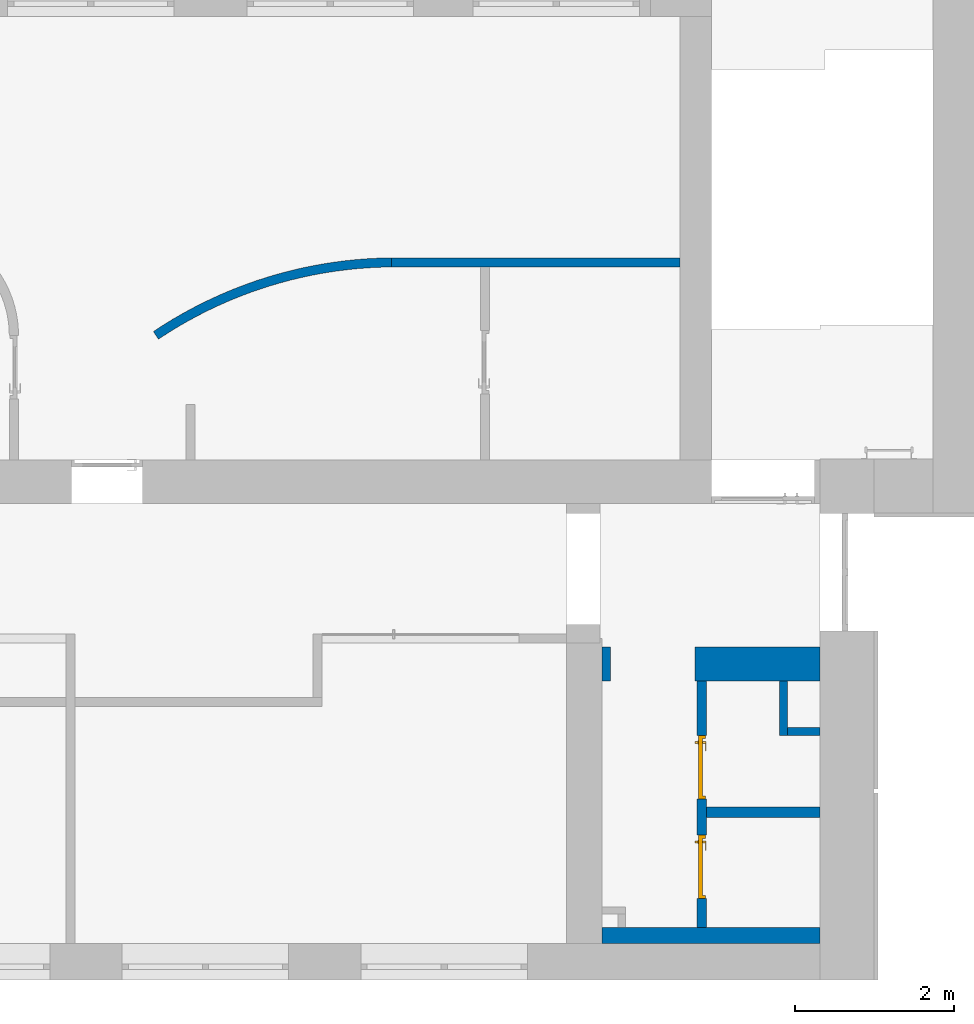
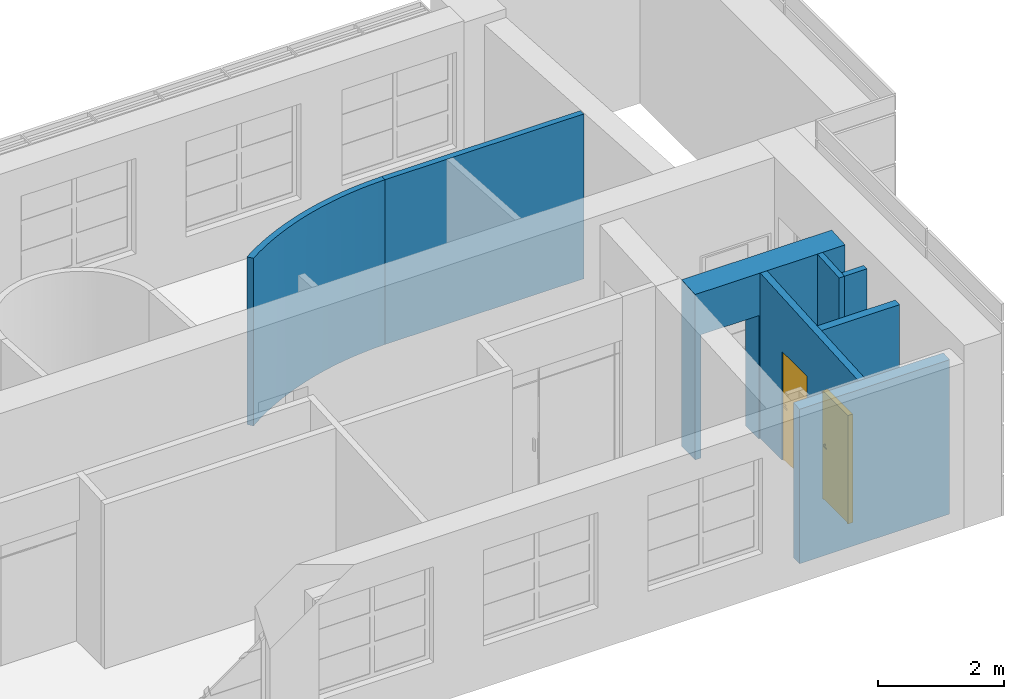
# One storey, part 39 of 46: 8 walls, 2 doors, 5 openings.
"""IFC2X3 building model written with IfcOpenShell, lengths in millimetres."""

from ifc_helpers import new_model, entity, si_unit, converted_unit, derived_unit, direction, frame, frame_2d, origin, place, context, subcontext, project, spatial, polyline, circle_curve, parameter, trimmed, segment, composite_curve, rectangle, outline, extrude, clip, halfspace, bounded_halfspace, faceted_brep, source, transform, mapped, material, material_list, layer, layer_set, layer_usage, type_object, type_shapes, element, fill, save


model = new_model("IFC2X3")

# Units and contexts
model_context = context("Model", 3, precision=0.01, world=origin(), true_north=direction((6.12303176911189e-17, 1.0)))
body_context = subcontext(model_context, "Body", "Model", "MODEL_VIEW")
ifc_project = project(units=[si_unit("LENGTHUNIT", "METRE", prefix="MILLI"), si_unit("AREAUNIT", "SQUARE_METRE"), si_unit("VOLUMEUNIT", "CUBIC_METRE"), converted_unit("PLANEANGLEUNIT", "DEGREE", entity("IfcRatioMeasure", 0.0174532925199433), si_unit("PLANEANGLEUNIT", "RADIAN"), dimensions=[0, 0, 0, 0, 0, 0, 0]), si_unit("MASSUNIT", "GRAM", prefix="KILO"), derived_unit("MASSDENSITYUNIT", [(si_unit("MASSUNIT", "GRAM", prefix="KILO"), 1), (si_unit("LENGTHUNIT", "METRE"), -3)]), si_unit("TIMEUNIT", "SECOND"), si_unit("FREQUENCYUNIT", "HERTZ"), si_unit("THERMODYNAMICTEMPERATUREUNIT", "DEGREE_CELSIUS"), derived_unit("THERMALTRANSMITTANCEUNIT", [(si_unit("MASSUNIT", "GRAM", prefix="KILO"), 1), (si_unit("THERMODYNAMICTEMPERATUREUNIT", "KELVIN"), -1), (si_unit("TIMEUNIT", "SECOND"), -3)]), derived_unit("VOLUMETRICFLOWRATEUNIT", [(si_unit("LENGTHUNIT", "METRE"), 3), (si_unit("TIMEUNIT", "SECOND"), -1)]), si_unit("ELECTRICCURRENTUNIT", "AMPERE"), si_unit("ELECTRICVOLTAGEUNIT", "VOLT"), si_unit("POWERUNIT", "WATT"), si_unit("FORCEUNIT", "NEWTON", prefix="KILO"), si_unit("ILLUMINANCEUNIT", "LUX"), si_unit("LUMINOUSFLUXUNIT", "LUMEN"), si_unit("LUMINOUSINTENSITYUNIT", "CANDELA"), derived_unit("USERDEFINED", [(si_unit("MASSUNIT", "GRAM", prefix="KILO"), -1), (si_unit("LENGTHUNIT", "METRE"), -2), (si_unit("TIMEUNIT", "SECOND"), 3), (si_unit("LUMINOUSFLUXUNIT", "LUMEN"), 1)]), derived_unit("LINEARVELOCITYUNIT", [(si_unit("LENGTHUNIT", "METRE"), 1), (si_unit("TIMEUNIT", "SECOND"), -1)]), si_unit("PRESSUREUNIT", "PASCAL"), derived_unit("USERDEFINED", [(si_unit("LENGTHUNIT", "METRE"), -2), (si_unit("MASSUNIT", "GRAM", prefix="KILO"), 1), (si_unit("TIMEUNIT", "SECOND"), -2)])], contexts=[model_context])

# Site, building, storey
site_placement = place(None, frame((-151.875543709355, 2715.0, 0.0)))
site = spatial("IfcSite", under=ifc_project, at=site_placement, Name="Surface", CompositionType="ELEMENT")
building_placement = place(site_placement, origin())
building = spatial("IfcBuilding", under=site, at=building_placement, CompositionType="ELEMENT")
storey_placement = place(building_placement, frame((0.0, 0.0, 10060.0)))
storey = spatial("IfcBuildingStorey", under=building, at=storey_placement, Name="4 korrus", CompositionType="ELEMENT", Elevation=10060.0000000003)

# Wall, openings
ifc_material_1 = material(Name="__Hall krohv")
ifc_layer_1 = layer(ifc_material_1, 10.0)
ifc_material_2 = material(Name="Tellis")
ifc_layer_2 = layer(ifc_material_2, 410.0)
ifc_layer_3 = layer(ifc_material_1, 10.0)
ifc_layer_set_1 = layer_set([ifc_layer_1, ifc_layer_2, ifc_layer_3], Name="Basic Wall:SS-01_ol.olev tellissein430")
ifc_layer_usage_1 = layer_usage(ifc_layer_set_1, "AXIS2", "NEGATIVE", 215.0)
wall_type_1 = type_object("IfcWallType", Name="Basic Wall:SS-01_ol.olev tellissein430", PredefinedType="STANDARD", material=ifc_layer_set_1)
wall_1_placement = place(storey_placement, frame((33741.6162682, 3987.50856337, 0.0), z_axis=(0.0, 0.0, 1.0), x_axis=(-1.0, 0.0, 0.0)))
wall_1 = element("IfcWallStandardCase", 1, at=wall_1_placement, inside=storey, type_object=wall_type_1, material=ifc_layer_usage_1, Name="SEIN - 002", ObjectType="Basic Wall:SS-01_ol.olev tellissein430", context=body_context, shape_type="SweptSolid", body=[
    extrude(rectangle(XDim=2747.5991088, YDim=430.0, at=frame_2d((1373.7995544, 0.0), x_axis=(-1.0, 0.0))), origin(), (0.0, 0.0, 1.0), 3228.57556442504),
])
opening_1_placement = place(wall_1_placement, origin())
element("IfcOpeningElement", 2, at=opening_1_placement, cuts=wall_1, Name="SEIN - 002", ObjectType="Opening", context=body_context, shape_type="SweptSolid", body=[
    extrude(rectangle(XDim=2385.870876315, YDim=1060.0, at=frame_2d((0.0, 2.1600499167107e-12), x_axis=(1.0, 0.0))), frame((2110.55462821, -215.0, 1192.9354381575), z_axis=(0.0, 1.0, 0.0), x_axis=(0.0, 0.0, -1.0)), (0.0, 0.0, 1.0), 430.0),
])
opening_2_placement = place(wall_1_placement, frame((33281.7507227, 225.0, 3200.39489498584)))
element("IfcOpeningElement", 3, at=opening_2_placement, cuts=wall_1, Name="SEIN - 002", ObjectType="Opening", context=body_context, shape_type="Brep", body=[
    faceted_brep([(-33281.75072261, 0.0, 4816.40350129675), (-33281.75072261, -450.0, 4845.22464049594), (0.0, -450.0, 4845.22464049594), (0.0, 0.0, 4816.40350129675), (-33281.75072261, 0.0, 0.0), (0.0, 0.0, 0.0), (0.0, -450.0, 28.8211391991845), (-33281.75072261, -450.0, 28.8211391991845)], [[[0, 1, 2, 3]], [[4, 5, 6, 7]], [[0, 4, 7, 1]], [[1, 7, 6, 2]], [[2, 6, 5, 3]], [[3, 5, 4, 0]]]),
])

# Wall, opening
ifc_layer_4 = layer(ifc_material_1, 10.0)
ifc_layer_5 = layer(ifc_material_2, 180.0)
ifc_layer_6 = layer(ifc_material_1, 10.0)
ifc_layer_set_2 = layer_set([ifc_layer_4, ifc_layer_5, ifc_layer_6], Name="Basic Wall:SS-01_ol.olev tellissein200")
ifc_layer_usage_2 = layer_usage(ifc_layer_set_2, "AXIS2", "NEGATIVE", 100.0)
wall_type_2 = type_object("IfcWallType", Name="Basic Wall:SS-01_ol.olev tellissein200", PredefinedType="STANDARD", material=ifc_layer_set_2)
wall_2_placement = place(storey_placement, frame((30994.0171594, 559.904632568, 0.0)))
wall_2 = element("IfcWallStandardCase", 4, at=wall_2_placement, inside=storey, type_object=wall_type_2, material=ifc_layer_usage_2, Name="SEIN - 006", ObjectType="Basic Wall:SS-01_ol.olev tellissein200", context=body_context, shape_type="SweptSolid", body=[
    extrude(rectangle(XDim=2747.5991088, YDim=200.0, at=frame_2d((1373.7995544, 0.0), x_axis=(-1.0, 0.0))), origin(), (0.0, 0.0, 1.0), 3001.68249549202),
])
opening_3_placement = place(wall_2_placement, frame((-30534.1516139, -110.0, 2988.2326305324)))
element("IfcOpeningElement", 5, at=opening_3_placement, cuts=wall_2, Name="SEIN - 006", ObjectType="Opening", context=body_context, shape_type="Brep", body=[
    faceted_brep([(33281.75072261, 0.0, 4800.24787449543), (33281.75072261, 220.0, 4814.33820921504), (0.0, 220.0, 4814.33820921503), (0.0, 0.0, 4800.24787449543), (33281.75072261, 0.0, 0.0), (0.0, 0.0, 0.0), (0.0, 220.0, 14.0903347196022), (33281.75072261, 220.0, 14.0903347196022)], [[[0, 1, 2, 3]], [[4, 5, 6, 7]], [[4, 7, 1, 0]], [[7, 6, 2, 1]], [[6, 5, 3, 2]], [[5, 4, 0, 3]]]),
])

# Walls
ifc_material_3 = material(Name="__Kips GN13_tava")
ifc_layer_7 = layer(ifc_material_3, 12.5)
ifc_layer_8 = layer(ifc_material_3, 12.5)
ifc_material_4 = material(Name="__Soojustus EPS")
ifc_layer_9 = layer(ifc_material_4, 66.0)
ifc_layer_10 = layer(ifc_material_3, 12.5)
ifc_layer_11 = layer(ifc_material_3, 12.5)
ifc_layer_set_3 = layer_set([ifc_layer_7, ifc_layer_8, ifc_layer_9, ifc_layer_10, ifc_layer_11], Name="Basic Wall:SS-3_Kipssein tava ruumide vahel")
ifc_layer_usage_3 = layer_usage(ifc_layer_set_3, "AXIS2", "NEGATIVE", 58.0)
wall_type_3 = type_object("IfcWallType", Name="Basic Wall:SS-3_Kipssein tava ruumide vahel", PredefinedType="STANDARD", material=ifc_layer_set_3)
wall_3_placement = place(storey_placement, frame((28333.7158805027, 9050.67041819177, 0.0)))
element("IfcWallStandardCase", 6, at=wall_3_placement, inside=storey, type_object=wall_type_3, material=ifc_layer_usage_3, Name="Basic Wall:SS-3_Kipssein tava ruumide vahel", ObjectType="Basic Wall:SS-3_Kipssein tava ruumide vahel", context=body_context, shape_type="Clipping", body=[
    clip(extrude(outline(polyline([(3638.90038769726, -58.0), (3638.90038769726, 58.0), (0.0, 58.0), (0.575419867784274, -58.0), (1123.87724615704, -58.0), (1239.87724615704, -58.0), (3638.90038769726, -58.0)])), origin(), (0.0, 0.0, 1.0), 3190.19462568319), bounded_halfspace(frame((0.575419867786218, -58.0, 3190.19462568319), z_axis=(0.0, 0.0638356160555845, 0.997960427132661), x_axis=(-1.0, 0.0, 0.0)), False, frame((0.575419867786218, -58.0, 3190.19462568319)), polyline([(0.0, 0.0), (1123.30182628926, 0.0), (1239.30182628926, 0.0), (3638.32496782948, 0.0), (3638.32496782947, 116.0), (-0.575419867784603, 116.0), (0.0, 0.0)]))),
])
ifc_layer_usage_4 = layer_usage(ifc_layer_set_3, "AXIS2", "NEGATIVE", 58.0)
wall_4_placement = place(storey_placement, frame((28334.2882274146, 9050.67324223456, 0.0)))
element("IfcWallStandardCase", 7, at=wall_4_placement, inside=storey, type_object=wall_type_3, material=ifc_layer_usage_4, Name="Basic Wall:SS-3_Kipssein tava ruumide vahel", ObjectType="Basic Wall:SS-3_Kipssein tava ruumide vahel", context=body_context, shape_type="Clipping", body=[
    clip(extrude(outline(composite_curve([segment(trimmed(circle_curve(frame_2d((53.5475735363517, -5426.09382577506), x_axis=(1.0, 0.0)), 5368.35803727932), [parameter(90.5714828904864)], [parameter(123.858490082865)], True, "PARAMETER"), False, "CONTINUOUS"), segment(polyline([(0.00307295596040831, -58.0028240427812), (-0.572346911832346, 57.9971759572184)]), True, "CONTINUOUS"), segment(trimmed(circle_curve(frame_2d((53.5475735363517, -5426.09382577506), x_axis=(1.0, 0.0)), 5484.35803727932), [parameter(90.5654068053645)], [parameter(123.858490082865)], True, "PARAMETER"), True, "CONTINUOUS"), segment(polyline([(-3002.02757944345, -871.794366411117), (-2937.39891819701, -968.122639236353)]), True, "CONTINUOUS")], self_intersect=False)), origin(), (0.0, 0.0, 1.0), 3250.00669440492), halfspace(frame((-2937.3989181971, -968.12263923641, 3248.411422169), z_axis=(0.0, 0.0638356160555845, 0.997960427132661), x_axis=(-1.0, 0.0, 0.0)), False)),
])
ifc_material_5 = material(Name="Keraamiline_plaat")
ifc_layer_12 = layer(ifc_material_5, 10.0)
ifc_material_6 = material(Name="__Kips GKB_niiskuskindel")
ifc_layer_13 = layer(ifc_material_6, 12.5)
ifc_layer_14 = layer(ifc_material_6, 12.5)
ifc_layer_15 = layer(ifc_material_4, 66.0)
ifc_layer_16 = layer(ifc_material_6, 12.5)
ifc_layer_17 = layer(ifc_material_6, 12.5)
ifc_layer_18 = layer(ifc_material_5, 10.0)
ifc_layer_set_4 = layer_set([ifc_layer_12, ifc_layer_13, ifc_layer_14, ifc_layer_15, ifc_layer_16, ifc_layer_17, ifc_layer_18], Name="Basic Wall:SS-5_Kipssein niiskete ruumide vahel")
ifc_layer_usage_5 = layer_usage(ifc_layer_set_4, "AXIS2", "NEGATIVE", 68.0)
wall_type_4 = type_object("IfcWallType", Name="Basic Wall:SS-5_Kipssein niiskete ruumide vahel", PredefinedType="STANDARD", material=ifc_layer_set_4)
wall_5_placement = place(storey_placement, frame((33741.6162682, 2115.77522812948, 0.0), z_axis=(0.0, 0.0, 1.0), x_axis=(-1.0, 0.0, 0.0)))
element("IfcWallStandardCase", 8, at=wall_5_placement, inside=storey, type_object=wall_type_4, material=ifc_layer_usage_5, Name="Basic Wall:SS-5_Kipssein niiskete ruumide vahel", ObjectType="Basic Wall:SS-5_Kipssein niiskete ruumide vahel", context=body_context, shape_type="Clipping", body=[
    clip(extrude(rectangle(XDim=1429.40039062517, YDim=136.0, at=frame_2d((714.700195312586, 0.0), x_axis=(-1.0, 0.0))), origin(), (0.0, 0.0, 1.0), 3099.14153495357), bounded_halfspace(frame((0.0, -68.0, 3099.14153495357), z_axis=(0.0, 0.0638356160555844, 0.997960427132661), x_axis=(-1.0, 0.0, 0.0)), False, frame((0.0, -68.0, 3099.14153495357)), polyline([(0.0, 0.0), (1429.40039062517, 0.0), (1429.40039062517, 136.0), (0.0, 136.0), (0.0, 0.0)]))),
])

# Wall, openings, doors
ifc_layer_19 = layer(ifc_material_3, 12.5)
ifc_layer_20 = layer(ifc_material_3, 12.5)
ifc_layer_21 = layer(ifc_material_4, 66.0)
ifc_layer_22 = layer(ifc_material_6, 12.5)
ifc_layer_23 = layer(ifc_material_6, 12.5)
ifc_layer_24 = layer(ifc_material_5, 10.0)
ifc_layer_set_5 = layer_set([ifc_layer_19, ifc_layer_20, ifc_layer_21, ifc_layer_22, ifc_layer_23, ifc_layer_24], Name="Basic Wall:SS-4_Kipssein tava ja niiske ruumi vahel")
ifc_layer_usage_6 = layer_usage(ifc_layer_set_5, "AXIS2", "NEGATIVE", 63.0)
wall_type_5 = type_object("IfcWallType", Name="Basic Wall:SS-4_Kipssein tava ja niiske ruumi vahel", PredefinedType="STANDARD", material=ifc_layer_set_5)
wall_6_placement = place(storey_placement, frame((32249.2158775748, 659.904632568, 0.0), z_axis=(0.0, 0.0, 1.0), x_axis=(0.0, 1.0, 0.0)))
wall_6 = element("IfcWallStandardCase", 9, at=wall_6_placement, inside=storey, type_object=wall_type_5, material=ifc_layer_usage_6, Name="Basic Wall:SS-4_Kipssein tava ja niiske ruumi vahel", ObjectType="Basic Wall:SS-4_Kipssein tava ja niiske ruumi vahel", context=body_context, shape_type="Clipping", body=[
    clip(extrude(rectangle(XDim=3112.603930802, YDim=125.999999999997, at=frame_2d((1556.301965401, -7.46069872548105e-14), x_axis=(-1.0, 0.0))), origin(), (0.0, 0.0, 1.0), 3200.7665778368), bounded_halfspace(frame((0.0, -63.0, 3001.66550723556), z_axis=(-0.0638356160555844, 0.0, 0.997960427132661), x_axis=(0.0, -1.0, 0.0)), False, frame((0.0, -63.0, 3001.66550723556)), polyline([(0.0, 0.0), (1387.87059556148, 0.0), (1523.87059556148, 0.0), (3112.603930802, 0.0), (3112.603930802, 126.0), (0.0, 126.0), (0.0, 0.0)]))),
])
opening_4_placement = place(wall_6_placement, frame((367.813171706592, -63.0, 0.0)))
opening_4 = element("IfcOpeningElement", 10, at=opening_4_placement, cuts=wall_6, Name="Ühepoolsed:SU-05:1", ObjectType="Opening", context=body_context, shape_type="SweptSolid", body=[
    extrude(rectangle(XDim=2099.99999999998, YDim=800.0, at=frame_2d((1049.99999999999, 400.0), x_axis=(1.0, 0.0))), frame((0.0, 0.0, 0.0), z_axis=(0.0, 1.0, 0.0), x_axis=(0.0, 0.0, 1.0)), (0.0, 0.0, 1.0), 126.0),
])
opening_5_placement = place(wall_6_placement, frame((1623.87059556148, -63.0, 0.0)))
opening_5 = element("IfcOpeningElement", 11, at=opening_5_placement, cuts=wall_6, Name="Ühepoolsed:SU-05:1", ObjectType="Opening", context=body_context, shape_type="SweptSolid", body=[
    extrude(rectangle(XDim=2099.99999999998, YDim=800.0, at=frame_2d((1049.99999999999, 400.0), x_axis=(1.0, 0.0))), frame((0.0, 0.0, 0.0), z_axis=(0.0, 1.0, 0.0), x_axis=(0.0, 0.0, 1.0)), (0.0, 0.0, 1.0), 126.0),
])
ifc_material_7 = material(Name="_Alumiiniumprofiil - must")
ifc_material_8 = material(Name="__Uks_hele tamm")
ifc_material_list_1 = material_list([ifc_material_7, ifc_material_8])
ifc_material_list_2 = material_list([ifc_material_7, ifc_material_8])
door_style = type_object("IfcDoorStyle", Name="SU-05", ConstructionType="NOTDEFINED", OperationType="FOLDING_TO_LEFT", ParameterTakesPrecedence=False, Sizeable=False, material=ifc_material_list_2)
shared_shape = source(origin(), body_context, "Body", "Brep", [
    faceted_brep([(700.0, 16.0, 1112.5), (605.0, 16.0, 1112.5), (605.0, 11.0, 1112.5), (725.0, 11.0, 1112.5), (725.0, 54.0, 1112.5), (700.0, 54.0, 1112.5), (700.0, 16.0, 1087.5), (700.0, 54.0, 1087.5), (725.0, 54.0, 1087.5), (725.0, 11.0, 1087.5), (605.0, 11.0, 1087.5), (605.0, 16.0, 1087.5)], [[[0, 1, 2, 3, 4, 5]], [[6, 7, 8, 9, 10, 11]], [[5, 7, 6, 0]], [[4, 8, 7, 5]], [[3, 9, 8, 4]], [[2, 10, 9, 3]], [[1, 11, 10, 2]], [[0, 6, 11, 1]]]),
    faceted_brep([(687.500000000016, 54.0, 1137.5), (737.500000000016, 54.0, 1137.5), (737.500000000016, 56.0, 1137.5), (687.500000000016, 56.0, 1137.5), (687.500000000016, 54.0, 1017.5), (687.500000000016, 56.0, 1017.5), (737.500000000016, 56.0, 1017.5), (737.500000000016, 54.0, 1017.5)], [[[0, 1, 2, 3]], [[4, 5, 6, 7]], [[3, 5, 4, 0]], [[2, 6, 5, 3]], [[1, 7, 6, 2]], [[0, 4, 7, 1]]]),
    faceted_brep([(700.0, 146.0, 1112.5), (700.0, 108.0, 1112.5), (725.0, 108.0, 1112.5), (725.0, 151.0, 1112.5), (605.0, 151.0, 1112.5), (605.0, 146.0, 1112.5), (700.0, 146.0, 1087.5), (605.0, 146.0, 1087.5), (605.0, 151.0, 1087.5), (725.0, 151.0, 1087.5), (725.0, 108.0, 1087.5), (700.0, 108.0, 1087.5)], [[[0, 1, 2, 3, 4, 5]], [[6, 7, 8, 9, 10, 11]], [[1, 0, 6, 11]], [[2, 1, 11, 10]], [[3, 2, 10, 9]], [[4, 3, 9, 8]], [[5, 4, 8, 7]], [[0, 5, 7, 6]]]),
    faceted_brep([(687.500000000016, 108.0, 1137.5), (687.500000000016, 106.0, 1137.5), (737.500000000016, 106.0, 1137.5), (737.500000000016, 108.0, 1137.5), (687.500000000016, 108.0, 1017.5), (737.500000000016, 108.0, 1017.5), (737.500000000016, 106.0, 1017.5), (687.500000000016, 106.0, 1017.5)], [[[0, 1, 2, 3]], [[4, 5, 6, 7]], [[1, 0, 4, 7]], [[2, 1, 7, 6]], [[3, 2, 6, 5]], [[0, 3, 5, 4]]]),
    faceted_brep([(0.0, 16.0, 0.0), (0.0, 106.0, 0.0), (25.0, 106.0, 0.0), (25.0, 56.0, 0.0), (40.0, 56.0, 0.0), (40.0, 16.0, 0.0), (40.0, 16.0, 2060.0), (760.0, 16.0, 2060.0), (760.0, 16.0, 0.0), (800.0, 16.0, 0.0), (800.0, 16.0, 2100.0), (0.0, 16.0, 2100.0), (40.0, 56.0, 2060.0), (25.0, 56.0, 2075.0), (775.0, 56.0, 2075.0), (775.0, 56.0, 0.0), (760.0, 56.0, 0.0), (760.0, 56.0, 2060.0), (25.0, 106.0, 2075.0), (0.0, 106.0, 2100.0), (800.0, 106.0, 2100.0), (800.0, 106.0, 0.0), (775.0, 106.0, 0.0), (775.0, 106.0, 2075.0)], [[[0, 1, 2, 3, 4, 5]], [[5, 6, 7, 8, 9, 10, 11, 0]], [[4, 12, 6, 5]], [[3, 13, 14, 15, 16, 17, 12, 4]], [[2, 18, 13, 3]], [[1, 19, 20, 21, 22, 23, 18, 2]], [[0, 11, 19, 1]], [[9, 21, 20, 10]], [[8, 16, 15, 22, 21, 9]], [[7, 17, 16, 8]], [[14, 23, 22, 15]], [[6, 12, 17, 7]], [[13, 18, 23, 14]], [[10, 20, 19, 11]]]),
    faceted_brep([(775.0, 56.0, 2075.0), (25.0, 56.0, 2075.0), (25.0, 56.0, 20.0), (775.0, 56.0, 20.0), (775.0, 106.0, 2075.0), (775.0, 106.0, 20.0), (25.0, 106.0, 20.0), (25.0, 106.0, 2075.0)], [[[0, 1, 2, 3]], [[4, 5, 6, 7]], [[3, 5, 4, 0]], [[2, 6, 5, 3]], [[1, 7, 6, 2]], [[0, 4, 7, 1]]]),
])
type_shapes(door_style, [shared_shape])
door_1_placement = place(opening_4_placement, origin())
door_1 = element("IfcDoor", 12, at=door_1_placement, inside=storey, type_object=door_style, material=ifc_material_list_1, Name="Ühepoolsed:SU-05", ObjectType="SU-05", OverallHeight=2099.99999999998, OverallWidth=800.0, context=body_context, shape_type="MappedRepresentation", body=[
    mapped(shared_shape, transform((0.0, 0.0, 0.0), scale=1.0)),
])
fill(opening_4, door_1)
ifc_material_list_3 = material_list([ifc_material_7, ifc_material_8])
door_2_placement = place(opening_5_placement, origin())
door_2 = element("IfcDoor", 13, at=door_2_placement, inside=storey, type_object=door_style, material=ifc_material_list_3, Name="Ühepoolsed:SU-05", ObjectType="SU-05", OverallHeight=2099.99999999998, OverallWidth=800.0, context=body_context, shape_type="MappedRepresentation", body=[
    mapped(shared_shape, transform((0.0, 0.0, 0.0), scale=1.0)),
])
fill(opening_5, door_2)

# Walls
ifc_material_9 = material(Name="__Helehall")
ifc_layer_25 = layer(ifc_material_9, 10.0)
ifc_material_10 = material(Name="__Kergblokk")
ifc_layer_26 = layer(ifc_material_10, 90.0)
ifc_layer_set_6 = layer_set([ifc_layer_25, ifc_layer_26], Name="Basic Wall:SS-6_Šahti sein EI-60")
ifc_layer_usage_7 = layer_usage(ifc_layer_set_6, "AXIS2", "POSITIVE", -50.0)
wall_type_6 = type_object("IfcWallType", Name="Basic Wall:SS-6_Šahti sein EI-60", PredefinedType="STANDARD", material=ifc_layer_set_6)
wall_7_placement = place(storey_placement, frame((33331.6162681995, 3133.77522812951, 0.0)))
element("IfcWallStandardCase", 14, at=wall_7_placement, inside=storey, type_object=wall_type_6, material=ifc_layer_usage_7, Name="Basic Wall:SS-6_Šahti sein EI-60", ObjectType="Basic Wall:SS-6_Šahti sein EI-60", context=body_context, shape_type="Clipping", body=[
    clip(extrude(rectangle(XDim=410.000000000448, YDim=100.0, at=frame_2d((205.000000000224, 0.0), x_axis=(-1.0, 0.0))), origin(), (0.0, 0.0, 1.0), 3163.1076144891), bounded_halfspace(frame((0.0, -50.0, 3156.71100653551), z_axis=(0.0, -0.0638356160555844, 0.997960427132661), x_axis=(1.0, 0.0, 0.0)), False, frame((0.0, -50.0, 3156.71100653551)), polyline([(0.0, 0.0), (410.0, 0.0), (410.0, 100.0), (0.0, 100.0), (0.0, 0.0)]))),
])
ifc_layer_usage_8 = layer_usage(ifc_layer_set_6, "AXIS2", "POSITIVE", -50.0)
wall_8_placement = place(storey_placement, frame((33281.6162681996, 3772.50856337, 0.0), z_axis=(0.0, 0.0, 1.0), x_axis=(0.0, -1.0, 0.0)))
element("IfcWallStandardCase", 15, at=wall_8_placement, inside=storey, type_object=wall_type_6, material=ifc_layer_usage_8, Name="Basic Wall:SS-6_Šahti sein EI-60", ObjectType="Basic Wall:SS-6_Šahti sein EI-60", context=body_context, shape_type="Clipping", body=[
    clip(extrude(rectangle(XDim=688.733335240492, YDim=100.000000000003, at=frame_2d((344.366667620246, -6.71462885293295e-13), x_axis=(-1.0, 0.0))), origin(), (0.0, 0.0, 1.0), 3200.76657783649), bounded_halfspace(frame((0.0, -50.0, 3200.76657783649), z_axis=(0.0638356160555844, 0.0, 0.997960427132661), x_axis=(0.0, 1.0, 0.0)), False, frame((0.0, -50.0, 3200.76657783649)), polyline([(0.0, 0.0), (688.733335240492, 0.0), (688.733335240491, 100.0), (588.733335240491, 100.0), (0.0, 100.0), (0.0, 0.0)]))),
])

save(model, "model.ifc")
